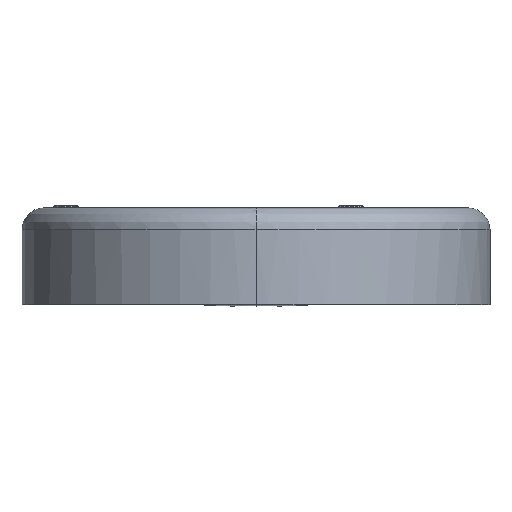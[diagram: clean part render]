
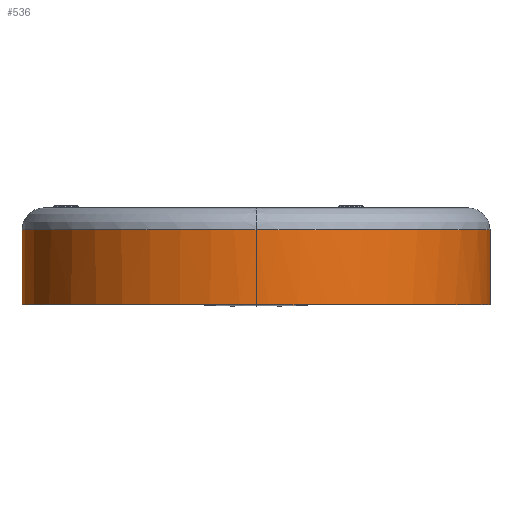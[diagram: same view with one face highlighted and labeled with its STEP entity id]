
A CAD part, left-side view. The second image highlights one B-rep face of the part: STEP entity #536.
In plain terms, the highlighted free-form (B-spline) face has degree [2, 1] with [9, 2] control points.
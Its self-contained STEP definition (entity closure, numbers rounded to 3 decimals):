
#536=ADVANCED_FACE('',(#960),#6376,.T.);
#960=FACE_OUTER_BOUND('',#1486,.T.);
#1486=EDGE_LOOP('',(#3513,#3514,#3515,#3516,#3517));
#3513=ORIENTED_EDGE('',*,*,#4749,.F.);
#3514=ORIENTED_EDGE('',*,*,#4752,.T.);
#3515=ORIENTED_EDGE('',*,*,#4744,.F.);
#3516=ORIENTED_EDGE('',*,*,#4751,.F.);
#3517=ORIENTED_EDGE('',*,*,#4753,.T.);
#4744=EDGE_CURVE('',#5979,#5976,#6946,.T.);
#4749=EDGE_CURVE('',#5982,#5983,#5300,.T.);
#4751=EDGE_CURVE('',#5984,#5979,#5301,.T.);
#4752=EDGE_CURVE('',#5982,#5976,#6950,.T.);
#4753=EDGE_CURVE('',#5984,#5983,#6951,.T.);
#5300=B_SPLINE_CURVE_WITH_KNOTS('',1,(#21998,#21999),.UNSPECIFIED.,.F.,
 .F.,(2,2),(0.,85.),.UNSPECIFIED.);
#5301=B_SPLINE_CURVE_WITH_KNOTS('',1,(#22005,#22006),.UNSPECIFIED.,.F.,
 .F.,(2,2),(0.,85.),.UNSPECIFIED.);
#5976=VERTEX_POINT('',#21550);
#5979=VERTEX_POINT('',#21553);
#5982=VERTEX_POINT('',#21556);
#5983=VERTEX_POINT('',#21557);
#5984=VERTEX_POINT('',#21558);
#6376=(
BOUNDED_SURFACE()
B_SPLINE_SURFACE(2,1,((#19969,#19970),(#19971,#19972),(#19973,#19974),(#19975,
#19976),(#19977,#19978),(#19979,#19980),(#19981,#19982),(#19983,#19984),
(#19985,#19986)),.UNSPECIFIED.,.T.,.F.,.F.)
B_SPLINE_SURFACE_WITH_KNOTS((3,2,2,2,3),(2,2),(0.,416.261,832.522,
1248.783,1665.044),(0.,102.),.UNSPECIFIED.)
GEOMETRIC_REPRESENTATION_ITEM()
RATIONAL_B_SPLINE_SURFACE(((1.,1.),(0.707,0.707),
(1.,1.),(0.707,0.707),(1.,1.),(0.707,
0.707),(1.,1.),(0.707,0.707),(1.,1.)))
REPRESENTATION_ITEM('')
SURFACE()
);
#6946=(
BOUNDED_CURVE()
B_SPLINE_CURVE(2,(#21983,#21984,#21985),.UNSPECIFIED.,.F.,.F.)
B_SPLINE_CURVE_WITH_KNOTS((3,3),(376.991,753.982),
 .UNSPECIFIED.)
CURVE()
GEOMETRIC_REPRESENTATION_ITEM()
RATIONAL_B_SPLINE_CURVE((1.,0.707,1.))
REPRESENTATION_ITEM('')
);
#6950=(
BOUNDED_CURVE()
B_SPLINE_CURVE(2,(#22007,#22008,#22009),.UNSPECIFIED.,.F.,.F.)
B_SPLINE_CURVE_WITH_KNOTS((3,3),(0.,416.261),.UNSPECIFIED.)
CURVE()
GEOMETRIC_REPRESENTATION_ITEM()
RATIONAL_B_SPLINE_CURVE((1.,0.707,1.))
REPRESENTATION_ITEM('')
);
#6951=(
BOUNDED_CURVE()
B_SPLINE_CURVE(2,(#22010,#22011,#22012,#22013,#22014),.UNSPECIFIED.,.F.,
 .F.)
B_SPLINE_CURVE_WITH_KNOTS((3,2,3),(0.,416.261,832.522),
 .UNSPECIFIED.)
CURVE()
GEOMETRIC_REPRESENTATION_ITEM()
RATIONAL_B_SPLINE_CURVE((1.,0.707,1.,0.707,1.))
REPRESENTATION_ITEM('')
);
#19969=CARTESIAN_POINT('',(265.,-57.15,38.15));
#19970=CARTESIAN_POINT('',(265.,-57.15,-63.85));
#19971=CARTESIAN_POINT('',(265.,-322.15,38.15));
#19972=CARTESIAN_POINT('',(265.,-322.15,-63.85));
#19973=CARTESIAN_POINT('',(0.,-322.15,38.15));
#19974=CARTESIAN_POINT('',(0.,-322.15,-63.85));
#19975=CARTESIAN_POINT('',(-265.,-322.15,38.15));
#19976=CARTESIAN_POINT('',(-265.,-322.15,-63.85));
#19977=CARTESIAN_POINT('',(-265.,-57.15,38.15));
#19978=CARTESIAN_POINT('',(-265.,-57.15,-63.85));
#19979=CARTESIAN_POINT('',(-265.,207.85,38.15));
#19980=CARTESIAN_POINT('',(-265.,207.85,-63.85));
#19981=CARTESIAN_POINT('',(0.,207.85,38.15));
#19982=CARTESIAN_POINT('',(0.,207.85,-63.85));
#19983=CARTESIAN_POINT('',(265.,207.85,38.15));
#19984=CARTESIAN_POINT('',(265.,207.85,-63.85));
#19985=CARTESIAN_POINT('',(265.,-57.15,38.15));
#19986=CARTESIAN_POINT('',(265.,-57.15,-63.85));
#21550=CARTESIAN_POINT('',(-265.,-57.15,29.65));
#21553=CARTESIAN_POINT('',(0.,207.85,29.65));
#21556=CARTESIAN_POINT('',(0.,-322.15,29.65));
#21557=CARTESIAN_POINT('',(0.,-322.15,-55.35));
#21558=CARTESIAN_POINT('',(0.,207.85,-55.35));
#21983=CARTESIAN_POINT('',(0.,207.85,29.65));
#21984=CARTESIAN_POINT('',(-265.,207.85,29.65));
#21985=CARTESIAN_POINT('',(-265.,-57.15,29.65));
#21998=CARTESIAN_POINT('',(0.,-322.15,29.65));
#21999=CARTESIAN_POINT('',(0.,-322.15,-55.35));
#22005=CARTESIAN_POINT('',(0.,207.85,-55.35));
#22006=CARTESIAN_POINT('',(0.,207.85,29.65));
#22007=CARTESIAN_POINT('',(0.,-322.15,29.65));
#22008=CARTESIAN_POINT('',(-265.,-322.15,29.65));
#22009=CARTESIAN_POINT('',(-265.,-57.15,29.65));
#22010=CARTESIAN_POINT('',(0.,207.85,-55.35));
#22011=CARTESIAN_POINT('',(-265.,207.85,-55.35));
#22012=CARTESIAN_POINT('',(-265.,-57.15,-55.35));
#22013=CARTESIAN_POINT('',(-265.,-322.15,-55.35));
#22014=CARTESIAN_POINT('',(0.,-322.15,-55.35));
